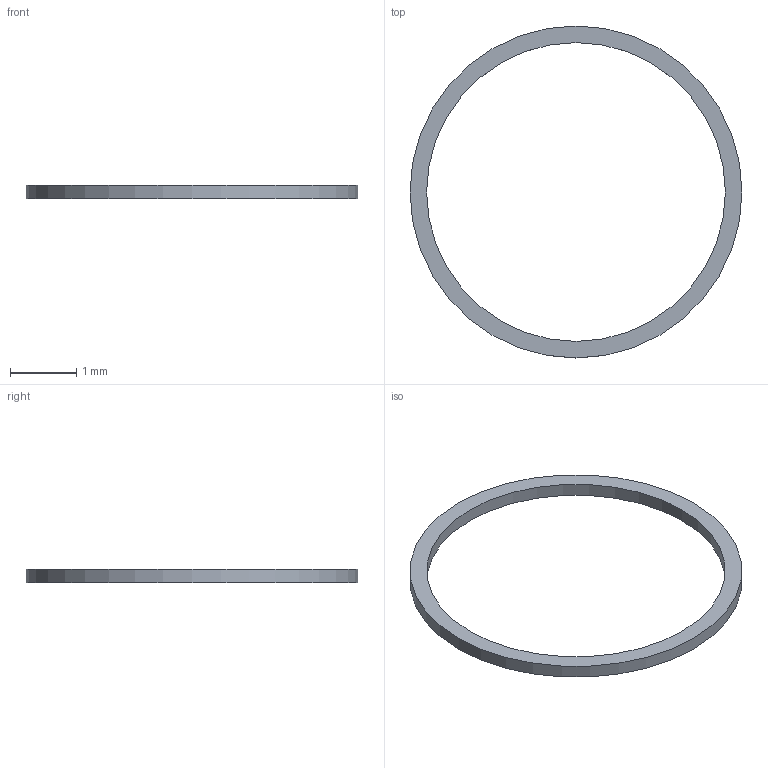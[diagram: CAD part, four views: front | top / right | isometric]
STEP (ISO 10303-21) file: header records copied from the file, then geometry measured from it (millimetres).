
FILE_DESCRIPTION(('Open CASCADE Model'),'2;1');
FILE_NAME('Open CASCADE Shape Model','2026-10-24T17:46:06',('Author'),( 'Open CASCADE'),'Open CASCADE STEP processor 8.0','Open CASCADE 8.0' ,'Unknown');
FILE_SCHEMA(('AUTOMOTIVE_DESIGN { 1 0 10303 214 1 1 1 1 }'));
Length unit declared in the file: millimetre
Products named in the file (1): Open CASCADE STEP translator 8.0 36
Bounding box: 5 x 5 x 0.2 mm (x, y, z)
Volume: 0.7 mm3; surface area: 13.4 mm2
Topology: 1 solids, 1 shells, 4 faces, 6 edges, 4 vertices
Faces by surface type: cylinder 2, plane 2
Full cylindrical faces by diameter (mm): 4.5 x1, 5 x1
Entity records: 186 total; most frequent: DIRECTION 32, CARTESIAN_POINT 27, ORIENTED_EDGE 12, PCURVE 12, DEFINITIONAL_REPRESENTATION 12, LINE 10, VECTOR 10, AXIS2_PLACEMENT_3D 9
